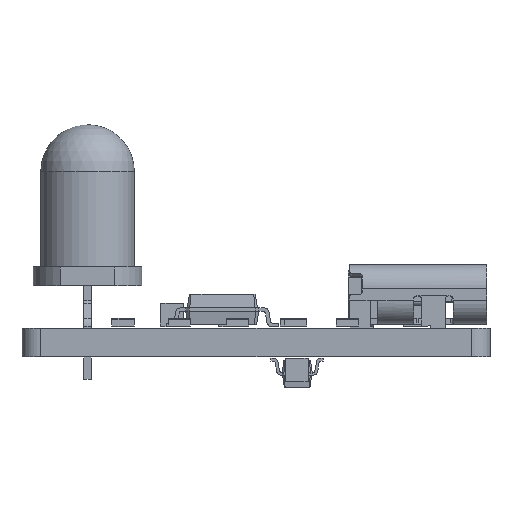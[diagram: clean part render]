
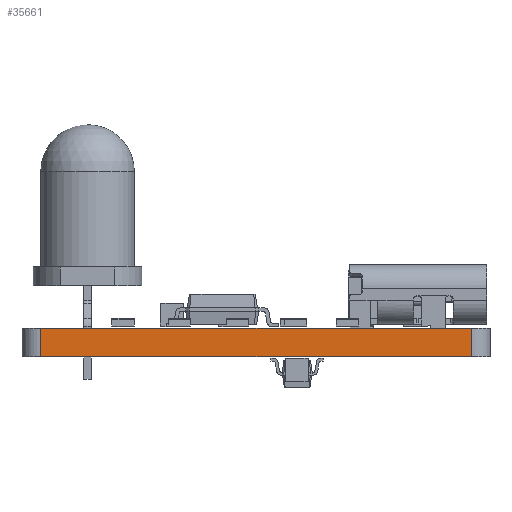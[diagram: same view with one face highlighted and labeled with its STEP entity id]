
A CAD part, left-side view. The second image highlights one B-rep face of the part: STEP entity #35661.
In plain terms, the highlighted planar face has unit normal (-1, 0, 0).
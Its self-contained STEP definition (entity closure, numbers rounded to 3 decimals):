
#35066 = VERTEX_POINT('',#35067);
#35067 = CARTESIAN_POINT('',(0.,-1.,0.));
#35074 = EDGE_CURVE('',#35075,#35066,#35077,.T.);
#35075 = VERTEX_POINT('',#35076);
#35076 = CARTESIAN_POINT('',(0.,-24.,0.));
#35077 = LINE('',#35078,#35079);
#35078 = CARTESIAN_POINT('',(0.,-24.,0.));
#35079 = VECTOR('',#35080,1.);
#35080 = DIRECTION('',(0.,1.,0.));
#35350 = VERTEX_POINT('',#35351);
#35351 = CARTESIAN_POINT('',(0.,-1.,1.51));
#35358 = EDGE_CURVE('',#35359,#35350,#35361,.T.);
#35359 = VERTEX_POINT('',#35360);
#35360 = CARTESIAN_POINT('',(0.,-24.,1.51));
#35361 = LINE('',#35362,#35363);
#35362 = CARTESIAN_POINT('',(0.,-24.,1.51));
#35363 = VECTOR('',#35364,1.);
#35364 = DIRECTION('',(0.,1.,0.));
#35631 = EDGE_CURVE('',#35066,#35350,#35632,.T.);
#35632 = LINE('',#35633,#35634);
#35633 = CARTESIAN_POINT('',(0.,-1.,0.));
#35634 = VECTOR('',#35635,1.);
#35635 = DIRECTION('',(0.,0.,1.));
#35661 = ADVANCED_FACE('',(#35662),#35673,.T.);
#35662 = FACE_BOUND('',#35663,.T.);
#35663 = EDGE_LOOP('',(#35664,#35670,#35671,#35672));
#35664 = ORIENTED_EDGE('',*,*,#35665,.T.);
#35665 = EDGE_CURVE('',#35075,#35359,#35666,.T.);
#35666 = LINE('',#35667,#35668);
#35667 = CARTESIAN_POINT('',(0.,-24.,0.));
#35668 = VECTOR('',#35669,1.);
#35669 = DIRECTION('',(0.,0.,1.));
#35670 = ORIENTED_EDGE('',*,*,#35358,.T.);
#35671 = ORIENTED_EDGE('',*,*,#35631,.F.);
#35672 = ORIENTED_EDGE('',*,*,#35074,.F.);
#35673 = PLANE('',#35674);
#35674 = AXIS2_PLACEMENT_3D('',#35675,#35676,#35677);
#35675 = CARTESIAN_POINT('',(0.,-24.,0.));
#35676 = DIRECTION('',(-1.,0.,0.));
#35677 = DIRECTION('',(0.,1.,0.));
